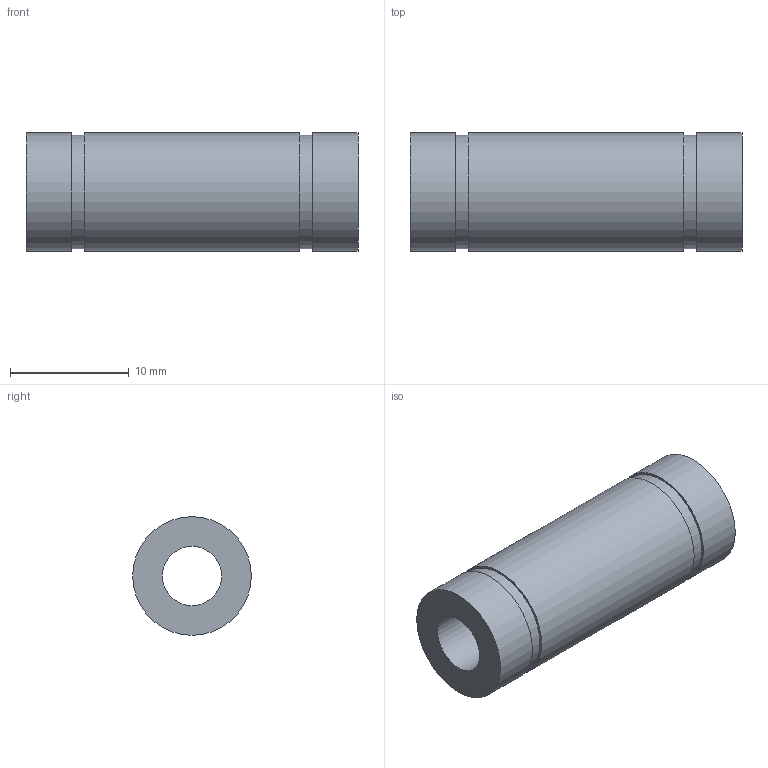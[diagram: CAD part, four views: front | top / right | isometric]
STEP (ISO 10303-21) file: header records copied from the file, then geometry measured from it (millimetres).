
FILE_DESCRIPTION(/* description */ ('Unknown'),/* implementation_level */ '2;1');
FILE_NAME(/* name */ 'LM5LUU',/* time_stamp */ '2025-02-03T14:48:36+08:00',/* author */ ('Unknown'),/* organization */ ('Unknown'),/* preprocessor_version */ 'ST-DEVELOPER v18.102',/* originating_system */ 'Solid Edge',/* authorisation */ 'Unknown');
FILE_SCHEMA (('AUTOMOTIVE_DESIGN {1 0 10303 214 3 1 1}'));
Length unit declared in the file: millimetre
Products named in the file (1): LM5LUU
Bounding box: 28 x 10 x 10 mm (x, y, z)
Volume: 1635.8 mm3; surface area: 1459.1 mm2
Topology: 1 solids, 1 shells, 12 faces, 20 edges, 14 vertices
Faces by surface type: cylinder 6, plane 6
Full cylindrical faces by diameter (mm): 5 x1, 9.6 x2, 10 x3
Entity records: 278 total; most frequent: DIRECTION 50, CARTESIAN_POINT 37, AXIS2_PLACEMENT_3D 25, ORIENTED_EDGE 24, EDGE_LOOP 24, FACE_BOUND 24, EDGE_CURVE 12, VERTEX_POINT 12
